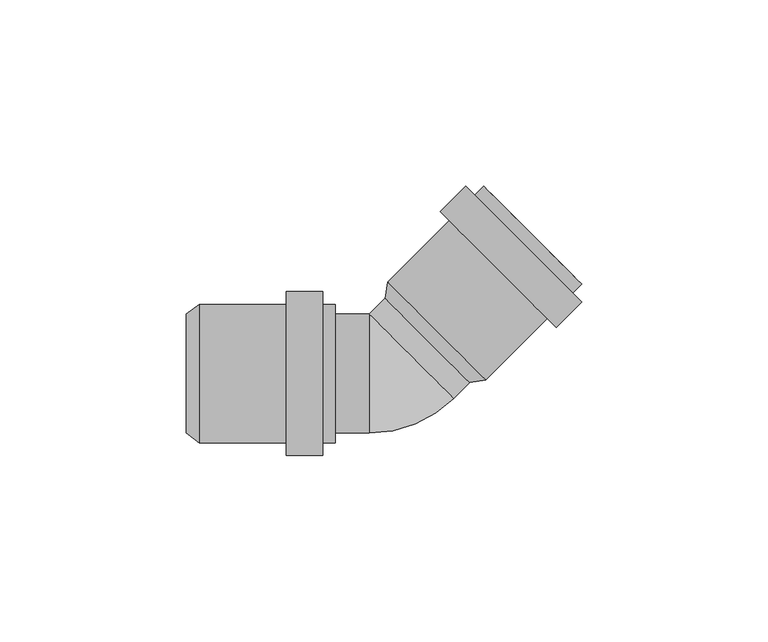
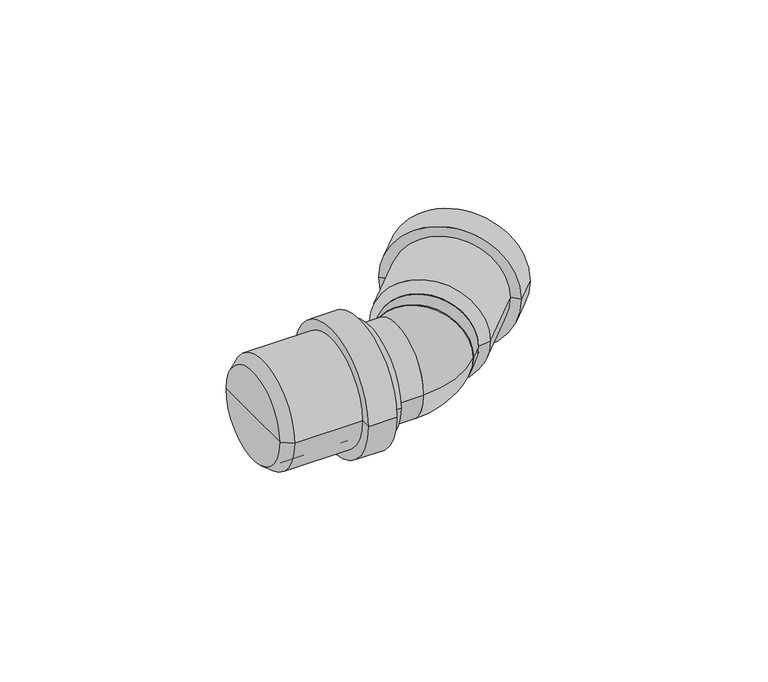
"""IFC4 building model written with IfcOpenShell, lengths in millimetres: pipe fitting geometry, pf_HTB : pf_HTB."""

from ifc_helpers import new_model, si_unit, point, frame, origin, origin_2d, place, context, project, spatial, polyline, circle_curve, ellipse_curve, trimmed, segment, composite_curve, outline, extrude, source, transform, mapped, element, save
from ifc_brep_helpers import plane_surface, cylinder_surface, revolved_surface, advanced_brep


def pipe_fitting_5e5e72fc(model_context):
    return source(origin(), model_context, "Body", "SolidModel", [
        advanced_brep(
        [(20.2232539, -2.4041631, 0.0), (-2.4041631, 20.2232539, 0.0), (-1.767767, 24.5366053, 0.0), (24.5366053, -1.767767, 0.0), (8.9095454, 8.9095454, 0.0), (50.3460028, 24.0416306, 0.0), (24.0416306, 50.3460028, 0.0), (25.8801082, 48.5075252, 0.0), (48.5075252, 25.8801082, 0.0), (47.9418398, 21.6374675, 0.0), (21.6374675, 47.9418398, 0.0), (50.3460028, 19.2333044, 0.0), (19.2333044, 50.3460028, 0.0), (43.487067, 12.3743687, 0.0), (12.3743687, 43.487067, 0.0), (41.082904, 14.7785317, 0.0), (14.7785317, 41.082904, 0.0), (22.6981277, 0.0707107, 0.0), (0.0707107, 22.6981277, 0.0), (11.3844192, 11.3844192, 0.0)],
        [
            (0, 1, circle_curve(frame((8.9095454, 8.9095454, 0.0), z_axis=(0.7071067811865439, 0.7071067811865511, 0.0), x_axis=(-0.7071067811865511, 0.7071067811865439, 0.0)), 16.0)),
            (1, 2),
            (2, 3, circle_curve(frame((11.3844192, 11.3844192, 0.0), z_axis=(-0.7071067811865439, -0.7071067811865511, 0.0), x_axis=(-0.7071067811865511, 0.7071067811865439, 0.0)), 18.6)),
            (3, 0),
            (1, 0, circle_curve(frame((8.9095454, 8.9095454, 0.0), z_axis=(0.7071067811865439, 0.7071067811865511, 0.0), x_axis=(-0.7071067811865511, 0.7071067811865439, 0.0)), 16.0)),
            (3, 2, circle_curve(frame((11.3844192, 11.3844192, 0.0), z_axis=(-0.7071067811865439, -0.7071067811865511, 0.0), x_axis=(-0.7071067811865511, 0.7071067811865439, 0.0)), 18.6)),
            (4, 1),
            (0, 4),
            (5, 6, circle_curve(frame((37.1938167, 37.1938167, 0.0), z_axis=(0.7071067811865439, 0.7071067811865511, 0.0), x_axis=(-0.7071067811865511, 0.7071067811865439, 0.0)), 18.6)),
            (6, 7),
            (7, 8, circle_curve(frame((37.1938167, 37.1938167, 0.0), z_axis=(-0.7071067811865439, -0.7071067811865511, 0.0), x_axis=(-0.7071067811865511, 0.7071067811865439, 0.0)), 16.0)),
            (8, 5),
            (6, 5, circle_curve(frame((37.1938167, 37.1938167, 0.0), z_axis=(0.7071067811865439, 0.7071067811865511, 0.0), x_axis=(-0.7071067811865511, 0.7071067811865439, 0.0)), 18.6)),
            (8, 7, circle_curve(frame((37.1938167, 37.1938167, 0.0), z_axis=(-0.7071067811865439, -0.7071067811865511, 0.0), x_axis=(-0.7071067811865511, 0.7071067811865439, 0.0)), 16.0)),
            (9, 10, circle_curve(frame((34.7896536, 34.7896536, 0.0), z_axis=(0.7071067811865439, 0.7071067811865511, 0.0), x_axis=(-0.7071067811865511, 0.7071067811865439, 0.0)), 18.6)),
            (10, 6),
            (5, 9),
            (10, 9, circle_curve(frame((34.7896536, 34.7896536, 0.0), z_axis=(0.7071067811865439, 0.7071067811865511, 0.0), x_axis=(-0.7071067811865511, 0.7071067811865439, 0.0)), 18.6)),
            (11, 12, circle_curve(frame((34.7896536, 34.7896536, 0.0), z_axis=(0.7071067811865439, 0.7071067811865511, 0.0), x_axis=(-0.7071067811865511, 0.7071067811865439, 0.0)), 22.0)),
            (12, 10),
            (9, 11),
            (12, 11, circle_curve(frame((34.7896536, 34.7896536, 0.0), z_axis=(0.7071067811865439, 0.7071067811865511, 0.0), x_axis=(-0.7071067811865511, 0.7071067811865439, 0.0)), 22.0)),
            (13, 14, circle_curve(frame((27.9307179, 27.9307179, 0.0), z_axis=(0.7071067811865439, 0.7071067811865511, 0.0), x_axis=(-0.7071067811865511, 0.7071067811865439, 0.0)), 22.0)),
            (14, 12),
            (11, 13),
            (14, 13, circle_curve(frame((27.9307179, 27.9307179, 0.0), z_axis=(0.7071067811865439, 0.7071067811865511, 0.0), x_axis=(-0.7071067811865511, 0.7071067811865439, 0.0)), 22.0)),
            (15, 16, circle_curve(frame((27.9307179, 27.9307179, 0.0), z_axis=(0.7071067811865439, 0.7071067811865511, 0.0), x_axis=(-0.7071067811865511, 0.7071067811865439, 0.0)), 18.6)),
            (16, 14),
            (13, 15),
            (16, 15, circle_curve(frame((27.9307179, 27.9307179, 0.0), z_axis=(0.7071067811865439, 0.7071067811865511, 0.0), x_axis=(-0.7071067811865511, 0.7071067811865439, 0.0)), 18.6)),
            (2, 16),
            (15, 3),
            (17, 18, circle_curve(frame((11.3844192, 11.3844192, 0.0), z_axis=(0.7071067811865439, 0.7071067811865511, 0.0), x_axis=(-0.7071067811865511, 0.7071067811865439, 0.0)), 16.0)),
            (18, 19),
            (19, 17),
            (18, 17, circle_curve(frame((11.3844192, 11.3844192, 0.0), z_axis=(0.7071067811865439, 0.7071067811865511, 0.0), x_axis=(-0.7071067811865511, 0.7071067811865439, 0.0)), 16.0)),
            (7, 18),
            (17, 8),
        ],
        [
            revolved_surface(polyline([(-1.767767, 24.5366053, 0.0), (-2.4041631, 20.2232539, 0.0)]), (8.9095454, 8.9095454, 0.0), (-0.7071067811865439, -0.7071067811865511, 0.0)),
            plane_surface(frame((8.9095454, 8.9095454, 0.0), z_axis=(-0.7071067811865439, -0.7071067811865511, 0.0), x_axis=(-0.7071067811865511, 0.7071067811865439, 0.0))),
            plane_surface(frame((37.1938167, 37.1938167, 0.0), z_axis=(0.7071067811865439, 0.7071067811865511, 0.0), x_axis=(-0.7071067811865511, 0.7071067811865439, 0.0))),
            cylinder_surface(frame((8.9095454, 8.9095454, 0.0), z_axis=(-0.7071067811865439, -0.7071067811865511, 0.0), x_axis=(-0.7071067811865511, 0.7071067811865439, 0.0)), 18.6),
            plane_surface(frame((34.7896536, 34.7896536, 0.0), z_axis=(0.7071067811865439, 0.7071067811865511, 0.0), x_axis=(-0.7071067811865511, 0.7071067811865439, 0.0))),
            cylinder_surface(frame((8.9095454, 8.9095454, 0.0), z_axis=(-0.7071067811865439, -0.7071067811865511, 0.0), x_axis=(-0.7071067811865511, 0.7071067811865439, 0.0)), 22.0),
            plane_surface(frame((27.9307179, 27.9307179, 0.0), z_axis=(-0.7071067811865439, -0.7071067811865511, 0.0), x_axis=(-0.7071067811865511, 0.7071067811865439, 0.0))),
            plane_surface(frame((11.3844192, 11.3844192, 0.0), z_axis=(0.7071067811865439, 0.7071067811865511, 0.0), x_axis=(-0.7071067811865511, 0.7071067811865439, 0.0))),
            revolved_surface(polyline([(0.07071070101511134, 22.698127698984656, 0.0), (25.880108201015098, 48.50752519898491, 0.0)]), (8.9095454, 8.9095454, 0.0), (-0.7071067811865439, -0.7071067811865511, 0.0)),
        ],
        [
            (0, [[1, 2, 3, 4]]),
            (0, [[5, -4, 6, -2]]),
            (1, [[7, -1, 8]]),
            (1, [[-8, -5, -7]]),
            (2, [[9, 10, 11, 12]]),
            (2, [[13, -12, 14, -10]]),
            (3, [[15, 16, -9, 17]]),
            (3, [[18, -17, -13, -16]]),
            (4, [[19, 20, -15, 21]]),
            (4, [[22, -21, -18, -20]]),
            (5, [[23, 24, -19, 25]]),
            (5, [[26, -25, -22, -24]]),
            (6, [[27, 28, -23, 29]]),
            (6, [[30, -29, -26, -28]]),
            (3, [[-3, 31, -27, 32]]),
            (3, [[-6, -32, -30, -31]]),
            (7, [[33, 34, 35]]),
            (7, [[36, -35, -34]]),
            (8, [[-11, 37, -33, 38]]),
            (8, [[-14, -38, -36, -37]]),
        ],
    ),
        advanced_brep(
        [(-55.8, -16.0, 0.0), (-55.8, 16.0, 0.0), (-52.3, 18.6, 0.0), (-52.3, -18.6, 0.0), (-55.8, 0.0, 0.0), (-15.8, -18.6, 0.0), (-15.8, 18.6, 0.0), (-15.8, 16.0, 0.0), (-15.8, -16.0, 0.0), (-19.2, -18.6, 0.0), (-19.2, 18.6, 0.0), (-19.2, -22.0, 0.0), (-19.2, 22.0, 0.0), (-28.9, -22.0, 0.0), (-28.9, 22.0, 0.0), (-28.9, -18.6, 0.0), (-28.9, 18.6, 0.0), (-52.3, -16.0, 0.0), (-52.3, 16.0, 0.0), (-52.3, 0.0, 0.0)],
        [
            (0, 1, circle_curve(frame((-55.8, 0.0, 0.0), z_axis=(1.0, 0.0, 0.0), x_axis=(0.0, 1.0, 0.0)), 16.0)),
            (1, 2),
            (2, 3, circle_curve(frame((-52.3, 0.0, 0.0), z_axis=(-1.0, 0.0, 0.0), x_axis=(0.0, 1.0, 0.0)), 18.6)),
            (3, 0),
            (1, 0, circle_curve(frame((-55.8, 0.0, 0.0), z_axis=(1.0, 0.0, 0.0), x_axis=(0.0, 1.0, 0.0)), 16.0)),
            (3, 2, circle_curve(frame((-52.3, 0.0, 0.0), z_axis=(-1.0, 0.0, 0.0), x_axis=(0.0, 1.0, 0.0)), 18.6)),
            (4, 1),
            (0, 4),
            (5, 6, circle_curve(frame((-15.8, 0.0, 0.0), z_axis=(1.0, 0.0, 0.0), x_axis=(0.0, 1.0, 0.0)), 18.6)),
            (6, 7),
            (7, 8, circle_curve(frame((-15.8, 0.0, 0.0), z_axis=(-1.0, 0.0, 0.0), x_axis=(0.0, 1.0, 0.0)), 16.0)),
            (8, 5),
            (6, 5, circle_curve(frame((-15.8, 0.0, 0.0), z_axis=(1.0, 0.0, 0.0), x_axis=(0.0, 1.0, 0.0)), 18.6)),
            (8, 7, circle_curve(frame((-15.8, 0.0, 0.0), z_axis=(-1.0, 0.0, 0.0), x_axis=(0.0, 1.0, 0.0)), 16.0)),
            (9, 10, circle_curve(frame((-19.2, 0.0, 0.0), z_axis=(1.0, 0.0, 0.0), x_axis=(0.0, 1.0, 0.0)), 18.6)),
            (10, 6),
            (5, 9),
            (10, 9, circle_curve(frame((-19.2, 0.0, 0.0), z_axis=(1.0, 0.0, 0.0), x_axis=(0.0, 1.0, 0.0)), 18.6)),
            (11, 12, circle_curve(frame((-19.2, 0.0, 0.0), z_axis=(1.0, 0.0, 0.0), x_axis=(0.0, 1.0, 0.0)), 22.0)),
            (12, 10),
            (9, 11),
            (12, 11, circle_curve(frame((-19.2, 0.0, 0.0), z_axis=(1.0, 0.0, 0.0), x_axis=(0.0, 1.0, 0.0)), 22.0)),
            (13, 14, circle_curve(frame((-28.9, 0.0, 0.0), z_axis=(1.0, 0.0, 0.0), x_axis=(0.0, 1.0, 0.0)), 22.0)),
            (14, 12),
            (11, 13),
            (14, 13, circle_curve(frame((-28.9, 0.0, 0.0), z_axis=(1.0, 0.0, 0.0), x_axis=(0.0, 1.0, 0.0)), 22.0)),
            (15, 16, circle_curve(frame((-28.9, 0.0, 0.0), z_axis=(1.0, 0.0, 0.0), x_axis=(0.0, 1.0, 0.0)), 18.6)),
            (16, 14),
            (13, 15),
            (16, 15, circle_curve(frame((-28.9, 0.0, 0.0), z_axis=(1.0, 0.0, 0.0), x_axis=(0.0, 1.0, 0.0)), 18.6)),
            (2, 16),
            (15, 3),
            (17, 18, circle_curve(frame((-52.3, 0.0, 0.0), z_axis=(1.0, 0.0, 0.0), x_axis=(0.0, 1.0, 0.0)), 16.0)),
            (18, 19),
            (19, 17),
            (18, 17, circle_curve(frame((-52.3, 0.0, 0.0), z_axis=(1.0, 0.0, 0.0), x_axis=(0.0, 1.0, 0.0)), 16.0)),
            (7, 18),
            (17, 8),
        ],
        [
            revolved_surface(polyline([(-52.3, 18.6, 0.0), (-55.8, 16.0, 0.0)]), (-55.8, 0.0, 0.0), (-1.0, 0.0, 0.0)),
            plane_surface(frame((-55.8, 0.0, 0.0), z_axis=(-1.0, 0.0, 0.0), x_axis=(0.0, 1.0, 0.0))),
            plane_surface(frame((-15.8, 0.0, 0.0), z_axis=(1.0, 0.0, 0.0), x_axis=(0.0, 1.0, 0.0))),
            cylinder_surface(frame((-55.8, 0.0, 0.0), z_axis=(-1.0, 0.0, 0.0), x_axis=(0.0, 1.0, 0.0)), 18.6),
            plane_surface(frame((-19.2, 0.0, 0.0), z_axis=(1.0, 0.0, 0.0), x_axis=(0.0, 1.0, 0.0))),
            cylinder_surface(frame((-55.8, 0.0, 0.0), z_axis=(-1.0, 0.0, 0.0), x_axis=(0.0, 1.0, 0.0)), 22.0),
            plane_surface(frame((-28.9, 0.0, 0.0), z_axis=(-1.0, 0.0, 0.0), x_axis=(0.0, 1.0, 0.0))),
            plane_surface(frame((-52.3, 0.0, 0.0), z_axis=(1.0, 0.0, 0.0), x_axis=(0.0, 1.0, 0.0))),
            revolved_surface(polyline([(-52.3, 16.0, 0.0), (-15.799999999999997, 16.0, 0.0)]), (-55.8, 0.0, 0.0), (-1.0, 0.0, 0.0)),
        ],
        [
            (0, [[1, 2, 3, 4]]),
            (0, [[5, -4, 6, -2]]),
            (1, [[7, -1, 8]]),
            (1, [[-8, -5, -7]]),
            (2, [[9, 10, 11, 12]]),
            (2, [[13, -12, 14, -10]]),
            (3, [[15, 16, -9, 17]]),
            (3, [[18, -17, -13, -16]]),
            (4, [[19, 20, -15, 21]]),
            (4, [[22, -21, -18, -20]]),
            (5, [[23, 24, -19, 25]]),
            (5, [[26, -25, -22, -24]]),
            (6, [[27, 28, -23, 29]]),
            (6, [[30, -29, -26, -28]]),
            (3, [[-3, 31, -27, 32]]),
            (3, [[-6, -32, -30, -31]]),
            (7, [[33, 34, 35]]),
            (7, [[36, -35, -34]]),
            (8, [[-11, 37, -33, 38]]),
            (8, [[-14, -38, -36, -37]]),
        ],
    ),
        extrude(outline(composite_curve([segment(trimmed(circle_curve(origin_2d(), 16.0), [point((0.0, -16.0))], [point((0.0, 16.0))], False, "CARTESIAN"), True, "CONTINUOUS"), segment(trimmed(circle_curve(origin_2d(), 16.0), [point((0.0, 16.0))], [point((0.0, -16.0))], False, "CARTESIAN"), True, "CONTINUOUS")], self_intersect=False)), frame((4.6862915, 4.6862915, 0.0), z_axis=(0.7071067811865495, 0.7071067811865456, 0.0), x_axis=(0.0, 0.0, 1.0)), (0.0, 0.0, 1.0), 9.472583),
        extrude(outline(composite_curve([segment(trimmed(circle_curve(origin_2d(), 16.0), [point((-16.0, 0.0))], [point((16.0, 0.0))], False, "CARTESIAN"), True, "CONTINUOUS"), segment(trimmed(circle_curve(origin_2d(), 16.0), [point((16.0, 0.0))], [point((-16.0, 0.0))], False, "CARTESIAN"), True, "CONTINUOUS")], self_intersect=False)), frame((-52.3, 0.0, 0.0), z_axis=(1.0, 0.0, 0.0), x_axis=(0.0, 1.0, 0.0)), (0.0, 0.0, 1.0), 45.672583),
        advanced_brep(
        [(-6.627417, -16.0, 0.0), (-6.627417, 16.0, 0.0), (16.0, -6.627417, 0.0)],
        [
            (0, 1, circle_curve(frame((-6.627417, 0.0, 0.0), z_axis=(-1.0, 0.0, 0.0), x_axis=(0.0, 1.0, 0.0)), 16.0)),
            (1, 0, circle_curve(frame((-6.627417, 0.0, 0.0), z_axis=(-1.0, 0.0, 0.0), x_axis=(0.0, 1.0, 0.0)), 16.0)),
            (2, 1, circle_curve(frame((4.6862915, 4.6862915, 0.0), z_axis=(0.7071067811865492, 0.7071067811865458, 0.0), x_axis=(-0.7071067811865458, 0.7071067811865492, 0.0)), 16.0)),
            (1, 2, circle_curve(frame((4.6862915, 4.6862915, 0.0), z_axis=(0.7071067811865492, 0.7071067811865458, 0.0), x_axis=(-0.7071067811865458, 0.7071067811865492, 0.0)), 16.0)),
            (2, 0, circle_curve(frame((-6.627417, 16.0, 0.0), z_axis=(0.0, 0.0, -1.0), x_axis=(0.0, -1.0, 0.0)), 32.0)),
        ],
        [
            plane_surface(frame((-6.627417, 16.0, -14.8), z_axis=(-1.0, 0.0, 0.0), x_axis=(0.0, -1.0, 0.0))),
            plane_surface(frame((-6.627417, 16.0, -14.8), z_axis=(0.7071067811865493, 0.7071067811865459, 0.0), x_axis=(0.7071067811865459, -0.7071067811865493, 0.0))),
            revolved_surface(trimmed(ellipse_curve(frame((-6.627417, 0.0, 0.0), z_axis=(1.0, 0.0, 0.0), x_axis=(0.0, 1.0, 0.0)), 16.0, 16.0), [point((-6.627417, -16.0, 0.0))], [point((-6.627417, 16.0, 0.0))], True, "CARTESIAN"), (-6.627417, 16.0, -14.8), (0.0, 0.0, -1.0)),
            revolved_surface(trimmed(ellipse_curve(frame((-6.627417, 0.0, 0.0), z_axis=(1.0, 0.0, 0.0), x_axis=(0.0, 1.0, 0.0)), 16.0, 16.0), [point((-6.627417, 16.0, 0.0))], [point((-6.627417, -16.0, 0.0))], True, "CARTESIAN"), (-6.627417, 16.0, -14.8), (0.0, 0.0, -1.0)),
        ],
        [
            (0, [[1, 2]]),
            (1, [[3, 4]]),
            (2, [[5, -2, -3]]),
            (3, [[-1, -5, -4]]),
        ],
    ),
    ])


if __name__ == "__main__":
    model = new_model("IFC4")
    model_context = context("Model", 3, world=origin())
    ifc_project = project(units=[si_unit("LENGTHUNIT", "METRE", prefix="MILLI")], contexts=[model_context])
    site = spatial("IfcSite", under=ifc_project)
    building = spatial("IfcBuilding", under=site)
    placement = place(None, origin())
    pipe_fitting_shape = pipe_fitting_5e5e72fc(model_context)
    element("IfcPipeFitting", 1, ObjectType="pf_HTB : pf_HTB", at=placement, inside=building, context=model_context, shape_type="MappedRepresentation", body=[
        mapped(pipe_fitting_shape, transform((0.0, 0.0, 0.0), x_axis=(1.0, 0.0, 0.0), y_axis=(0.0, 1.0, 0.0), z_axis=(0.0, 0.0, 1.0))),
    ])
    save(model, "model.ifc")
